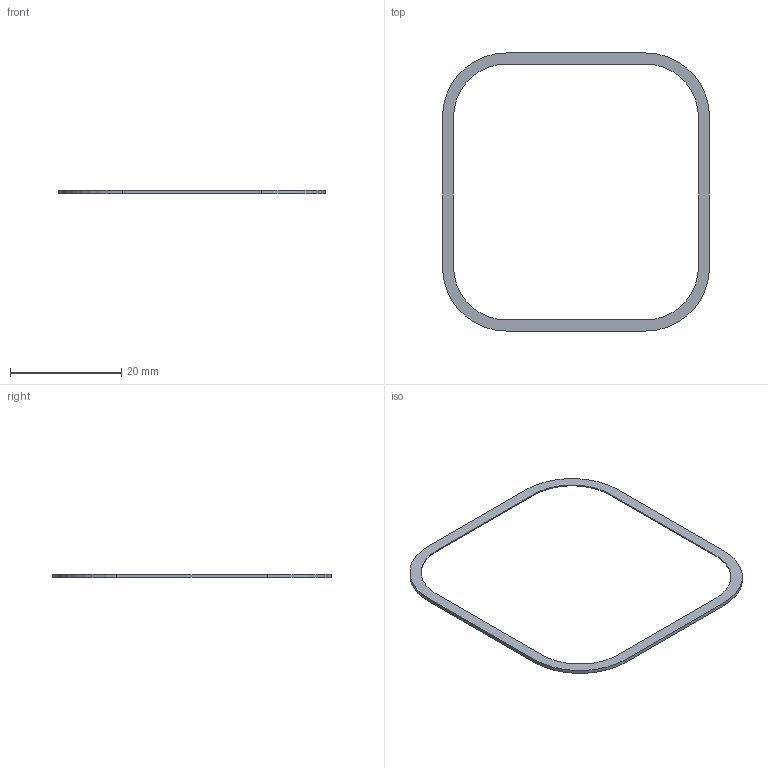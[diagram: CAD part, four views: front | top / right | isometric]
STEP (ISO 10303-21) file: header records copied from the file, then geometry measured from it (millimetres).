
FILE_DESCRIPTION(/* description */ (''),/* implementation_level */ '2;1');
FILE_NAME(/* name */ 'C28_R1_57_Stainless_Grille_Bezel.step',/* time_stamp */ '2026-09-10T17:49:42-07:00',/* author */ (''),/* organization */ (''),/* preprocessor_version */ 'ST-DEVELOPER v20.1',/* originating_system */ 'Autodesk Translation Framework v15.8.0.0',/* authorisation */ '');
FILE_SCHEMA (('AUTOMOTIVE_DESIGN { 1 0 10303 214 3 1 1 }'));
Length unit declared in the file: millimetre
Products named in the file (1): 2026-09-10-17-49-42-388
Bounding box: 48 x 50 x 0.65 mm (x, y, z)
Volume: 168.7 mm3; surface area: 902.8 mm2
Topology: 1 solids, 1 shells, 27 faces, 72 edges, 48 vertices
Faces by surface type: plane 15, cylinder 12
Entity records: 887 total; most frequent: DIRECTION 152, CARTESIAN_POINT 148, ORIENTED_EDGE 144, EDGE_CURVE 72, AXIS2_PLACEMENT_3D 52, LINE 48, VECTOR 48, VERTEX_POINT 48
